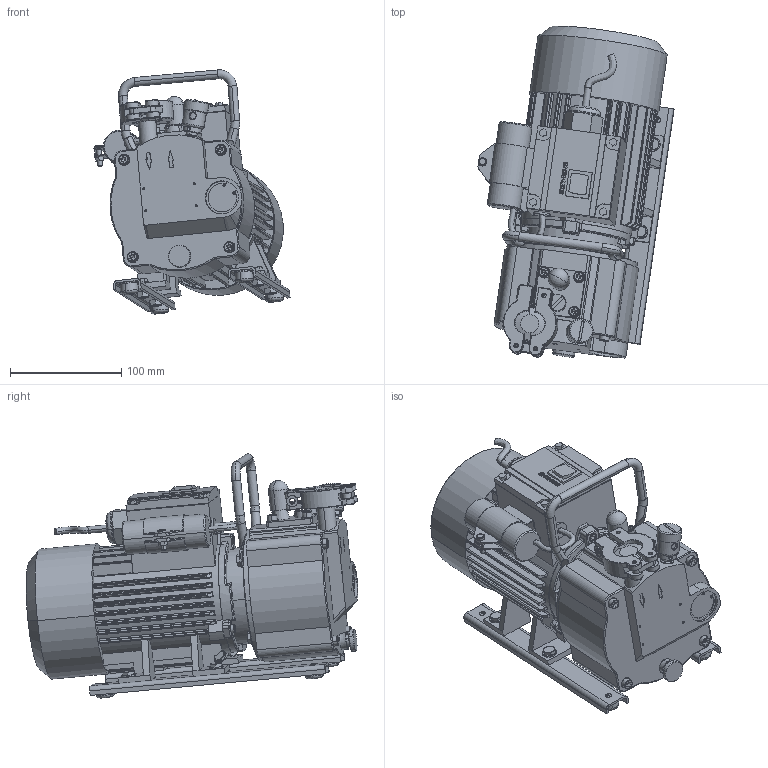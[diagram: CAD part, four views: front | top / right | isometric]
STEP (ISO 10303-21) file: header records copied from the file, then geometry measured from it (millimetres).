
FILE_DESCRIPTION((''),'2;1');
FILE_NAME('S_1_5_SW0002','2009-11-18T',('L0108624'),('Copyright by Leybold GmbH'),'PRO/ENGINEER BY PARAMETRIC TECHNOLOGY CORPORATION, 2009140','PRO/ENGINEER BY PARAMETRIC TECHNOLOGY CORPORATION, 2009140','');
FILE_SCHEMA(('AUTOMOTIVE_DESIGN { 1 0 10303 214 1 1 1 1 }'));
Length unit declared in the file: millimetre
Products named in the file (1): S_1_5_SW0002
Bounding box: 176.65 x 299.05 x 219.81 mm (x, y, z)
Volume: 2315924.8 mm3; surface area: 407961.4 mm2
Topology: 14 solids, 15 shells, 2588 faces, 7019 edges, 4519 vertices
Faces by surface type: plane 1149, cylinder 804, cone 332, torus 217, extrusion 49, bspline 25, sphere 12
Entity records: 113395 total; most frequent: CARTESIAN_POINT 28832, DIRECTION 13988, ORIENTED_EDGE 13910, EDGE_CURVE 6955, AXIS2_PLACEMENT_3D 5232, VERTEX_POINT 4519, VECTOR 3524, LINE 3475
